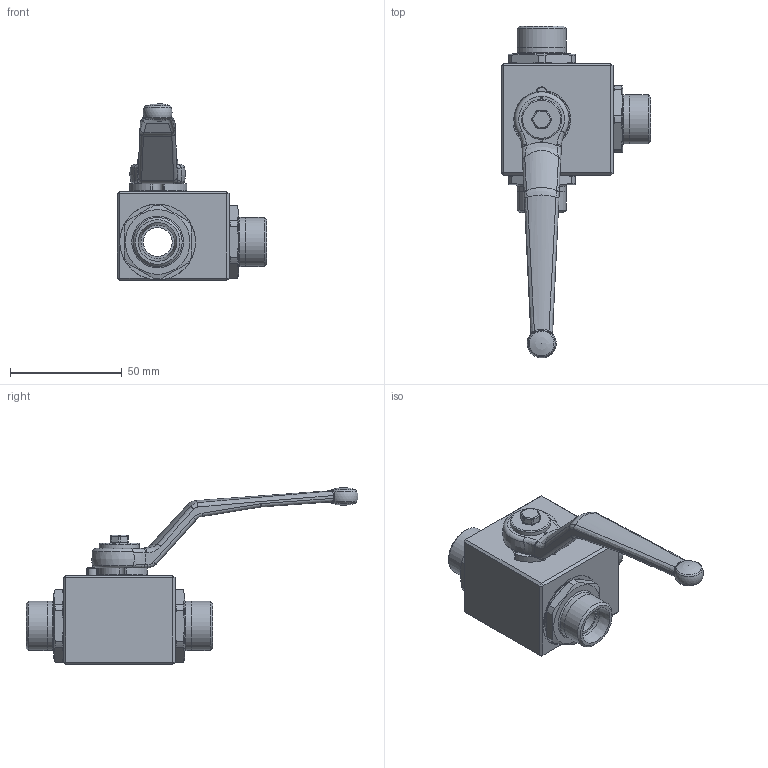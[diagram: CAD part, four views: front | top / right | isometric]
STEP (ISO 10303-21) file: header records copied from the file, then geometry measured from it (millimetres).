
FILE_DESCRIPTION( ( 'Unknown' ), '1' );
FILE_NAME( 'H:/PISTER/3D-MODELLE/BK3-Edelstahl stp/BK3-Edelst DN13 15L.stp', 'Unknown', ( 'Unknown' ), ( 'Unknown' ), 'PSStep 14.0', 'Unknown', ' ' );
FILE_SCHEMA( ( 'AUTOMOTIVE_DESIGN { 1 0 10303 214 1 1 1 1 }' ) );
Length unit declared in the file: millimetre
Products named in the file (11): Assem1; 09-09-003; 58-28740-16-oa2; 58-0440-009; 58-0933-235; 03-013-004-oa4; 04-013-047-oa5; 04-013-047-oa6; 56-032-005-oa11; Griff_SW9; 01-013-044-oa12
Assembly tree (10 placements, depth 2):
  Assem1
    09-09-003
    58-28740-16-oa2
    58-0440-009
    58-0933-235
    03-013-004-oa4
    04-013-047-oa5
    04-013-047-oa6
    56-032-005-oa11
    Griff_SW9
    01-013-044-oa12
Bounding box: 66.8 x 148.8 x 79.3 mm (x, y, z)
Volume: 88981.3 mm3; surface area: 37247.5 mm2
Topology: 10 solids, 10 shells, 370 faces, 924 edges, 581 vertices
Faces by surface type: plane 145, cylinder 123, bspline 36, torus 35, cone 27, sphere 4
Full cylindrical faces by diameter (mm): 4.2 x1, 4.98 x1, 5 x1, 5.8 x1, 13 x3, 14 x2, 15 x3, 18 x1, 22 x6, 23.1 x1, 24.376 x1, 24.5 x1, 26 x2, 26.35 x1, 29 x3, 29.5 x3, 34 x3
Entity records: 15289 total; most frequent: CARTESIAN_POINT 4176, DIRECTION 1688, ORIENTED_EDGE 1616, EDGE_CURVE 808, AXIS2_PLACEMENT_3D 677, VERTEX_POINT 536, EDGE_LOOP 467, FACE_OUTER_BOUND 415
